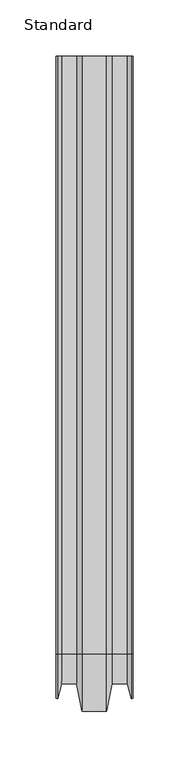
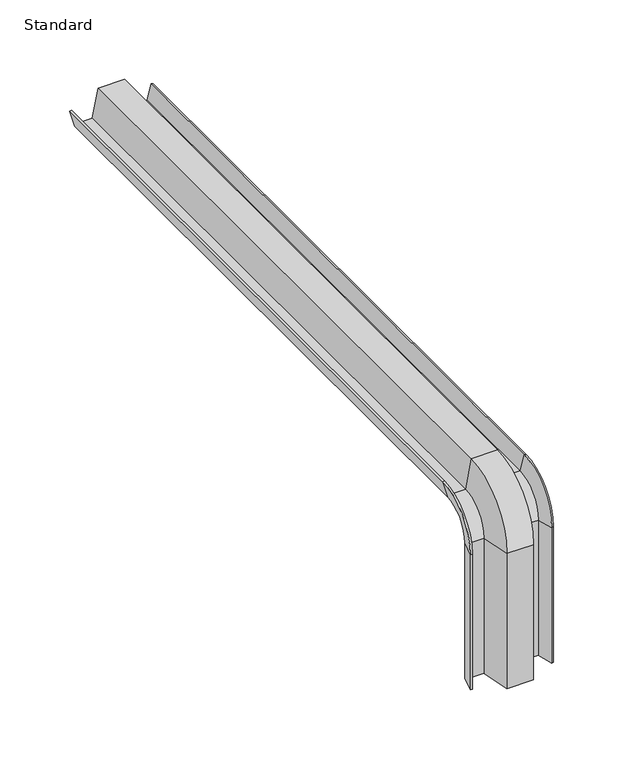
"""IFC4 building model written with IfcOpenShell, lengths in millimetres: electric appliance geometry, Bracket-L-Cablofil-Fas_Profile : Standard."""

from ifc_helpers import new_model, si_unit, frame, origin, place, context, project, spatial, polyline, circle_curve, source, transform, mapped, element, save
from ifc_brep_helpers import plane_surface, cylinder_surface, revolved_surface, advanced_brep


def standard_c336d6d9(model_context):
    return source(origin(), model_context, "Body", "AdvancedBrep", [
        advanced_brep(
        [(-34.362613, 266.7, 14.4117714), (-32.9137243, 266.7, 14.8), (-29.35, 266.7, 1.5), (-15.75, 266.7, 1.5), (-11.0, 266.7, 26.3), (11.0, 266.7, 26.3), (15.75, 266.7, 1.5), (29.35, 266.7, 1.5), (32.9137243, 266.7, 14.8), (34.362613, 266.7, 14.4117714), (30.5009905, 266.7, 0.0), (14.5100327, 266.7, 0.0), (9.7600327, 266.7, 24.8), (-9.7600327, 266.7, 24.8), (-14.5100327, 266.7, 0.0), (-30.5009905, 266.7, 0.0), (-34.362613, -306.2517505, -143.1942), (-30.5009905, -291.8399791, -143.1942), (-14.5100327, -291.8399791, -143.1942), (-9.7600327, -316.6399791, -143.1942), (9.7600327, -316.6399791, -143.1942), (14.5100327, -291.8399791, -143.1942), (30.5009905, -291.8399791, -143.1942), (34.362613, -306.2517505, -143.1942), (32.9137243, -306.6399791, -143.1942), (29.35, -293.3399791, -143.1942), (15.75, -293.3399791, -143.1942), (11.0, -318.1399791, -143.1942), (-11.0, -318.1399791, -143.1942), (-15.75, -293.3399791, -143.1942), (-29.35, -293.3399791, -143.1942), (-32.9137243, -306.6399791, -143.1942), (-34.362613, -266.7, 14.4117714), (-32.9137243, -266.7, 14.8), (-29.35, -266.7, 1.5), (-15.75, -266.7, 1.5), (-11.0, -266.7, 26.3), (11.0, -266.7, 26.3), (15.75, -266.7, 1.5), (29.35, -266.7, 1.5), (32.9137243, -266.7, 14.8), (34.362613, -266.7, 14.4117714), (30.5009905, -266.7, 0.0), (14.5100327, -266.7, 0.0), (9.7600327, -266.7, 24.8), (-9.7600327, -266.7, 24.8), (-14.5100327, -266.7, 0.0), (-30.5009905, -266.7, 0.0), (-32.9137243, -306.6399791, -25.1399791), (-34.362613, -306.2517505, -25.1399791), (-29.35, -293.3399791, -25.1399791), (-15.75, -293.3399791, -25.1399791), (-11.0, -318.1399791, -25.1399791), (11.0, -318.1399791, -25.1399791), (15.75, -293.3399791, -25.1399791), (29.35, -293.3399791, -25.1399791), (32.9137243, -306.6399791, -25.1399791), (34.362613, -306.2517505, -25.1399791), (30.5009905, -291.8399791, -25.1399791), (14.5100327, -291.8399791, -25.1399791), (9.7600327, -316.6399791, -25.1399791), (-9.7600327, -316.6399791, -25.1399791), (-14.5100327, -291.8399791, -25.1399791), (-30.5009905, -291.8399791, -25.1399791)],
        [
            (0, 1),
            (1, 2),
            (2, 3),
            (3, 4),
            (4, 5),
            (5, 6),
            (6, 7),
            (7, 8),
            (8, 9),
            (9, 10),
            (10, 11),
            (11, 12),
            (12, 13),
            (13, 14),
            (14, 15),
            (15, 0),
            (16, 17),
            (17, 18),
            (18, 19),
            (19, 20),
            (20, 21),
            (21, 22),
            (22, 23),
            (23, 24),
            (24, 25),
            (25, 26),
            (26, 27),
            (27, 28),
            (28, 29),
            (29, 30),
            (30, 31),
            (31, 16),
            (0, 32),
            (32, 33),
            (33, 1),
            (33, 34),
            (34, 2),
            (34, 35),
            (35, 3),
            (35, 36),
            (36, 4),
            (36, 37),
            (37, 5),
            (37, 38),
            (38, 6),
            (38, 39),
            (39, 7),
            (39, 40),
            (40, 8),
            (40, 41),
            (41, 9),
            (41, 42),
            (42, 10),
            (42, 43),
            (43, 11),
            (43, 44),
            (44, 12),
            (44, 45),
            (45, 13),
            (45, 46),
            (46, 14),
            (46, 47),
            (47, 15),
            (47, 32),
            (48, 33, circle_curve(frame((-32.9137243, -266.7, -25.1399791), z_axis=(-1.0, 0.0, 0.0), x_axis=(0.0, 0.0, 1.0)), 39.9399791)),
            (32, 49, circle_curve(frame((-34.362613, -266.7, -25.1399791), z_axis=(1.0, 0.0, 0.0), x_axis=(0.0, 0.0, 1.0)), 39.5517505)),
            (49, 48),
            (50, 34, circle_curve(frame((-29.35, -266.7, -25.1399791), z_axis=(-1.0, 0.0, 0.0), x_axis=(0.0, 0.0, 1.0)), 26.6399791)),
            (48, 50),
            (51, 35, circle_curve(frame((-15.75, -266.7, -25.1399791), z_axis=(-1.0, 0.0, 0.0), x_axis=(0.0, 0.0, 1.0)), 26.6399791)),
            (50, 51),
            (52, 36, circle_curve(frame((-11.0, -266.7, -25.1399791), z_axis=(-1.0, 0.0, 0.0), x_axis=(0.0, 0.0, 1.0)), 51.4399791)),
            (51, 52),
            (53, 37, circle_curve(frame((11.0, -266.7, -25.1399791), z_axis=(-1.0, 0.0, 0.0), x_axis=(0.0, 0.0, 1.0)), 51.4399791)),
            (52, 53),
            (54, 38, circle_curve(frame((15.75, -266.7, -25.1399791), z_axis=(-1.0, 0.0, 0.0), x_axis=(0.0, 0.0, 1.0)), 26.6399791)),
            (53, 54),
            (55, 39, circle_curve(frame((29.35, -266.7, -25.1399791), z_axis=(-1.0, 0.0, 0.0), x_axis=(0.0, 0.0, 1.0)), 26.6399791)),
            (54, 55),
            (56, 40, circle_curve(frame((32.9137243, -266.7, -25.1399791), z_axis=(-1.0, 0.0, 0.0), x_axis=(0.0, 0.0, 1.0)), 39.9399791)),
            (55, 56),
            (57, 41, circle_curve(frame((34.362613, -266.7, -25.1399791), z_axis=(-1.0, 0.0, 0.0), x_axis=(0.0, 0.0, 1.0)), 39.5517505)),
            (56, 57),
            (58, 42, circle_curve(frame((30.5009905, -266.7, -25.1399791), z_axis=(-1.0, 0.0, 0.0), x_axis=(0.0, 0.0, 1.0)), 25.1399791)),
            (57, 58),
            (59, 43, circle_curve(frame((14.5100327, -266.7, -25.1399791), z_axis=(-1.0, 0.0, 0.0), x_axis=(0.0, 0.0, 1.0)), 25.1399791)),
            (58, 59),
            (60, 44, circle_curve(frame((9.7600327, -266.7, -25.1399791), z_axis=(-1.0, 0.0, 0.0), x_axis=(0.0, 0.0, 1.0)), 49.9399791)),
            (59, 60),
            (61, 45, circle_curve(frame((-9.7600327, -266.7, -25.1399791), z_axis=(-1.0, 0.0, 0.0), x_axis=(0.0, 0.0, 1.0)), 49.9399791)),
            (60, 61),
            (62, 46, circle_curve(frame((-14.5100327, -266.7, -25.1399791), z_axis=(-1.0, 0.0, 0.0), x_axis=(0.0, 0.0, 1.0)), 25.1399791)),
            (61, 62),
            (63, 47, circle_curve(frame((-30.5009905, -266.7, -25.1399791), z_axis=(-1.0, 0.0, 0.0), x_axis=(0.0, 0.0, 1.0)), 25.1399791)),
            (62, 63),
            (63, 49),
            (49, 16),
            (31, 48),
            (30, 50),
            (29, 51),
            (28, 52),
            (27, 53),
            (26, 54),
            (25, 55),
            (24, 56),
            (23, 57),
            (22, 58),
            (21, 59),
            (20, 60),
            (19, 61),
            (18, 62),
            (17, 63),
        ],
        [
            plane_surface(frame((0.0, 266.7, 26.3), z_axis=(0.0, 1.0, 0.0), x_axis=(1.0, 0.0, 0.0))),
            plane_surface(frame((0.0, -318.1399791, -143.1942), z_axis=(0.0, 0.0, -1.0), x_axis=(1.0, 0.0, 0.0))),
            plane_surface(frame((-34.362613, 266.7, 14.4117714), z_axis=(-0.2588190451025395, 0.0, 0.9659258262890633), x_axis=(0.0, -1.0, 0.0))),
            plane_surface(frame((-32.9137243, 266.7, 14.8), z_axis=(0.9659258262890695, 0.0, 0.2588190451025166), x_axis=(0.0, -1.0, 0.0))),
            plane_surface(frame((-29.35, 266.7, 1.5), z_axis=(0.0, 0.0, 1.0), x_axis=(0.0, -1.0, 0.0))),
            plane_surface(frame((-15.75, 266.7, 1.5), z_axis=(-0.9821474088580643, 0.0, 0.18811291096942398), x_axis=(0.0, -1.0, 0.0))),
            plane_surface(frame((-11.0, 266.7, 26.3), z_axis=(0.0, 0.0, 1.0), x_axis=(0.0, -1.0, 0.0))),
            plane_surface(frame((11.0, 266.7, 26.3), z_axis=(0.9821474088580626, 0.0, 0.18811291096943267), x_axis=(0.0, -1.0, 0.0))),
            plane_surface(frame((15.75, 266.7, 1.5), z_axis=(0.0, 0.0, 1.0), x_axis=(0.0, -1.0, 0.0))),
            plane_surface(frame((29.35, 266.7, 1.5), z_axis=(-0.9659258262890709, 0.0, 0.25881904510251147), x_axis=(0.0, -1.0, 0.0))),
            plane_surface(frame((32.9137243, 266.7, 14.8), z_axis=(0.2588190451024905, 0.0, 0.9659258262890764), x_axis=(0.0, -1.0, 0.0))),
            plane_surface(frame((34.362613, 266.7, 14.4117714), z_axis=(0.9659258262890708, 0.0, -0.2588190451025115), x_axis=(0.0, -1.0, 0.0))),
            plane_surface(frame((30.5009905, 266.7, 0.0), z_axis=(0.0, 0.0, -1.0), x_axis=(0.0, -1.0, 0.0))),
            plane_surface(frame((14.5100327, 266.7, 0.0), z_axis=(-0.9821474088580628, 0.0, -0.1881129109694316), x_axis=(0.0, -1.0, 0.0))),
            plane_surface(frame((9.7600327, 266.7, 24.8), z_axis=(0.0, 0.0, -1.0), x_axis=(0.0, -1.0, 0.0))),
            plane_surface(frame((-9.7600327, 266.7, 24.8), z_axis=(0.982147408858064, 0.0, -0.18811291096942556), x_axis=(0.0, -1.0, 0.0))),
            plane_surface(frame((-14.5100327, 266.7, 0.0), z_axis=(0.0, 0.0, -1.0), x_axis=(0.0, -1.0, 0.0))),
            plane_surface(frame((-30.5009905, 266.7, 0.0), z_axis=(-0.9659258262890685, 0.0, -0.25881904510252), x_axis=(0.0, -1.0, 0.0))),
            revolved_surface(polyline([(-34.362613, -266.7, 14.4117714), (-32.9137243, -266.7, 14.8)]), (0.0, -266.7, -25.1399791), (1.0, 0.0, 0.0)),
            revolved_surface(polyline([(-32.9137243, -266.7, 14.8), (-29.35, -266.7, 1.5)]), (0.0, -266.7, -25.1399791), (1.0, 0.0, 0.0)),
            cylinder_surface(frame((0.0, -266.7, -25.1399791), z_axis=(1.0, 0.0, 0.0), x_axis=(0.0, 0.0, 1.0)), 26.6399791),
            revolved_surface(polyline([(-15.75, -266.7, 1.5), (-11.0, -266.7, 26.3)]), (0.0, -266.7, -25.1399791), (1.0, 0.0, 0.0)),
            cylinder_surface(frame((0.0, -266.7, -25.1399791), z_axis=(1.0, 0.0, 0.0), x_axis=(0.0, 0.0, 1.0)), 51.4399791),
            revolved_surface(polyline([(11.0, -266.7, 26.3), (15.75, -266.7, 1.5)]), (0.0, -266.7, -25.1399791), (1.0, 0.0, 0.0)),
            revolved_surface(polyline([(29.35, -266.7, 1.5), (32.9137243, -266.7, 14.8)]), (0.0, -266.7, -25.1399791), (1.0, 0.0, 0.0)),
            revolved_surface(polyline([(32.9137243, -266.7, 14.8), (34.362613, -266.7, 14.4117714)]), (0.0, -266.7, -25.1399791), (1.0, 0.0, 0.0)),
            revolved_surface(polyline([(34.362613, -266.7, 14.4117714), (30.5009905, -266.7, 0.0)]), (0.0, -266.7, -25.1399791), (1.0, 0.0, 0.0)),
            revolved_surface(polyline([(30.5009905, -266.7, 0.0), (14.5100327, -266.7, 0.0)]), (0.0, -266.7, -25.1399791), (1.0, 0.0, 0.0)),
            revolved_surface(polyline([(14.5100327, -266.7, 0.0), (9.7600327, -266.7, 24.8)]), (0.0, -266.7, -25.1399791), (1.0, 0.0, 0.0)),
            revolved_surface(polyline([(9.7600327, -266.7, 24.8), (-9.7600327, -266.7, 24.8)]), (0.0, -266.7, -25.1399791), (1.0, 0.0, 0.0)),
            revolved_surface(polyline([(-9.7600327, -266.7, 24.8), (-14.5100327, -266.7, 0.0)]), (0.0, -266.7, -25.1399791), (1.0, 0.0, 0.0)),
            revolved_surface(polyline([(-14.5100327, -266.7, 0.0), (-30.5009905, -266.7, 0.0)]), (0.0, -266.7, -25.1399791), (1.0, 0.0, 0.0)),
            revolved_surface(polyline([(-30.5009905, -266.7, 0.0), (-34.362613, -266.7, 14.4117714)]), (0.0, -266.7, -25.1399791), (1.0, 0.0, 0.0)),
            plane_surface(frame((-34.362613, -306.2517505, -25.1399791), z_axis=(-0.25881904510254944, -0.9659258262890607, 0.0), x_axis=(0.0, 0.0, -1.0))),
            plane_surface(frame((-32.9137243, -306.6399791, -25.1399791), z_axis=(0.9659258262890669, -0.2588190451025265, 0.0), x_axis=(0.0, 0.0, -1.0))),
            plane_surface(frame((-29.35, -293.3399791, -25.1399791), z_axis=(0.0, -1.0, 0.0), x_axis=(0.0, 0.0, -1.0))),
            plane_surface(frame((-15.75, -293.3399791, -25.1399791), z_axis=(-0.9821474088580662, -0.18811291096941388, 0.0), x_axis=(0.0, 0.0, -1.0))),
            plane_surface(frame((-11.0, -318.1399791, -25.1399791), z_axis=(0.0, -1.0, 0.0), x_axis=(0.0, 0.0, -1.0))),
            plane_surface(frame((11.0, -318.1399791, -25.1399791), z_axis=(0.9821474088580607, -0.18811291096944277, 0.0), x_axis=(0.0, 0.0, -1.0))),
            plane_surface(frame((15.75, -293.3399791, -25.1399791), z_axis=(0.0, -1.0, 0.0), x_axis=(0.0, 0.0, -1.0))),
            plane_surface(frame((29.35, -293.3399791, -25.1399791), z_axis=(-0.9659258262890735, -0.25881904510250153, 0.0), x_axis=(0.0, 0.0, -1.0))),
            plane_surface(frame((32.9137243, -306.6399791, -25.1399791), z_axis=(0.25881904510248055, -0.9659258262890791, 0.0), x_axis=(0.0, 0.0, -1.0))),
            plane_surface(frame((34.362613, -306.2517505, -25.1399791), z_axis=(0.9659258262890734, 0.2588190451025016, 0.0), x_axis=(0.0, 0.0, -1.0))),
            plane_surface(frame((30.5009905, -291.8399791, -25.1399791), z_axis=(0.0, 1.0, 0.0), x_axis=(0.0, 0.0, -1.0))),
            plane_surface(frame((14.5100327, -291.8399791, -25.1399791), z_axis=(-0.982147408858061, 0.18811291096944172, 0.0), x_axis=(0.0, 0.0, -1.0))),
            plane_surface(frame((9.7600327, -316.6399791, -25.1399791), z_axis=(0.0, 1.0, 0.0), x_axis=(0.0, 0.0, -1.0))),
            plane_surface(frame((-9.7600327, -316.6399791, -25.1399791), z_axis=(0.9821474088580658, 0.18811291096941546, 0.0), x_axis=(0.0, 0.0, -1.0))),
            plane_surface(frame((-14.5100327, -291.8399791, -25.1399791), z_axis=(0.0, 1.0, 0.0), x_axis=(0.0, 0.0, -1.0))),
            plane_surface(frame((-30.5009905, -291.8399791, -25.1399791), z_axis=(-0.9659258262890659, 0.25881904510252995, 0.0), x_axis=(0.0, 0.0, -1.0))),
        ],
        [
            (0, [[1, 2, 3, 4, 5, 6, 7, 8, 9, 10, 11, 12, 13, 14, 15, 16]]),
            (1, [[17, 18, 19, 20, 21, 22, 23, 24, 25, 26, 27, 28, 29, 30, 31, 32]]),
            (2, [[-1, 33, 34, 35]]),
            (3, [[-2, -35, 36, 37]]),
            (4, [[-3, -37, 38, 39]]),
            (5, [[-4, -39, 40, 41]]),
            (6, [[-5, -41, 42, 43]]),
            (7, [[-6, -43, 44, 45]]),
            (8, [[-7, -45, 46, 47]]),
            (9, [[-8, -47, 48, 49]]),
            (10, [[-9, -49, 50, 51]]),
            (11, [[-10, -51, 52, 53]]),
            (12, [[-11, -53, 54, 55]]),
            (13, [[-12, -55, 56, 57]]),
            (14, [[-13, -57, 58, 59]]),
            (15, [[-14, -59, 60, 61]]),
            (16, [[-15, -61, 62, 63]]),
            (17, [[-16, -63, 64, -33]]),
            (18, [[65, -34, 66, 67]]),
            (19, [[68, -36, -65, 69]]),
            (20, [[70, -38, -68, 71]]),
            (21, [[72, -40, -70, 73]]),
            (22, [[74, -42, -72, 75]]),
            (23, [[76, -44, -74, 77]]),
            (20, [[78, -46, -76, 79]]),
            (24, [[80, -48, -78, 81]]),
            (25, [[82, -50, -80, 83]]),
            (26, [[84, -52, -82, 85]]),
            (27, [[86, -54, -84, 87]]),
            (28, [[88, -56, -86, 89]]),
            (29, [[90, -58, -88, 91]]),
            (30, [[92, -60, -90, 93]]),
            (31, [[94, -62, -92, 95]]),
            (32, [[-66, -64, -94, 96]]),
            (33, [[-67, 97, -32, 98]]),
            (34, [[-69, -98, -31, 99]]),
            (35, [[-71, -99, -30, 100]]),
            (36, [[-73, -100, -29, 101]]),
            (37, [[-75, -101, -28, 102]]),
            (38, [[-77, -102, -27, 103]]),
            (39, [[-79, -103, -26, 104]]),
            (40, [[-81, -104, -25, 105]]),
            (41, [[-83, -105, -24, 106]]),
            (42, [[-85, -106, -23, 107]]),
            (43, [[-87, -107, -22, 108]]),
            (44, [[-89, -108, -21, 109]]),
            (45, [[-91, -109, -20, 110]]),
            (46, [[-93, -110, -19, 111]]),
            (47, [[-95, -111, -18, 112]]),
            (48, [[-96, -112, -17, -97]]),
        ],
    ),
    ])


if __name__ == "__main__":
    model = new_model("IFC4")
    model_context = context("Model", 3, world=origin())
    ifc_project = project(units=[si_unit("LENGTHUNIT", "METRE", prefix="MILLI")], contexts=[model_context])
    site = spatial("IfcSite", under=ifc_project)
    building = spatial("IfcBuilding", under=site)
    placement = place(None, origin())
    standard_shape = standard_c336d6d9(model_context)
    element("IfcElectricAppliance", 1, ObjectType="Bracket-L-Cablofil-Fas_Profile : Standard", at=placement, inside=building, context=model_context, shape_type="MappedRepresentation", body=[
        mapped(standard_shape, transform((0.0, 0.0, 0.0), x_axis=(1.0, 0.0, 0.0), y_axis=(0.0, 1.0, 0.0), z_axis=(0.0, 0.0, 1.0))),
    ])
    save(model, "model.ifc")
